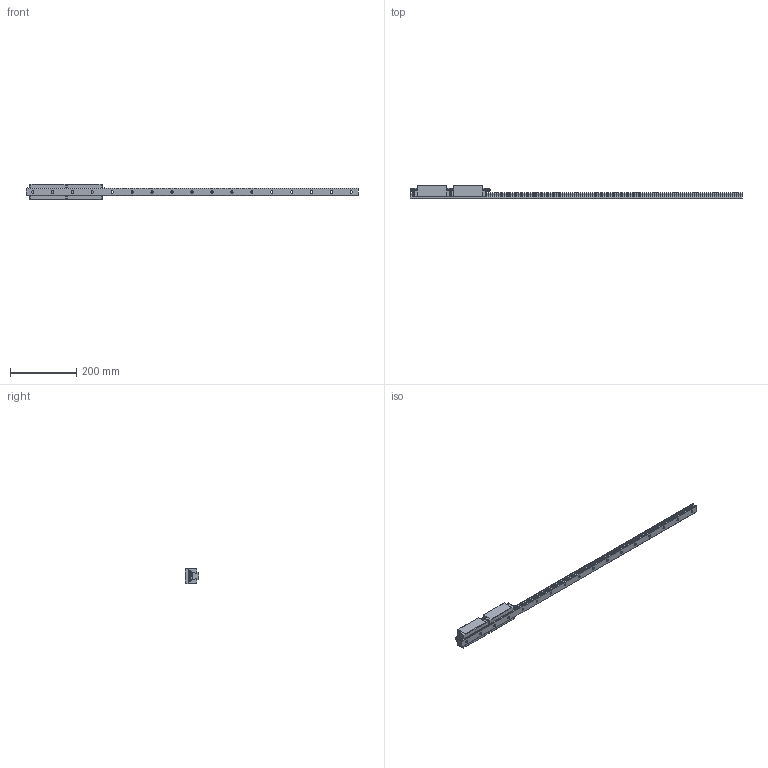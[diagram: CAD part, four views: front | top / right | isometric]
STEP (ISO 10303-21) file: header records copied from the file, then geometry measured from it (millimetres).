
FILE_DESCRIPTION( ( 'STEP AP203' ), '1' );
FILE_NAME( 'p:/temp/worker_964/temp/exporttempdir_3732_390_EUDIF/format_0/SME25LSA2SSF0+R1000-20_20N_(0_121_0_01G-M6).stp', '2020-07-22T14:23:51', ( 'License CC BY-ND 4.0' ), ( 'CADENAS' ), ' ', 'PARTsolutions', ' ' );
FILE_SCHEMA( ( 'CONFIG_CONTROL_DESIGN' ) );
Length unit declared in the file: millimetre
Products named in the file (5): SME25LSA2SSF0+R1000-20/20N_(0_121_0_01G-M6); _SME25EA1000-20/20N (2SSFCR1G-M6); _SME25LSASSF0N (); _SME-ES25; _G-M6
Assembly tree (9 placements, depth 2):
  SME25LSA2SSF0+R1000-20/20N_(0_121_0_01G-M6)
    _SME25EA1000-20/20N (2SSFCR1G-M6)
    _SME25LSASSF0N ()  x2
    _SME-ES25  x4
    _G-M6  x2
Bounding box: 1000 x 40 x 48 mm (x, y, z)
Volume: 637317.1 mm3; surface area: 148381.6 mm2
Topology: 9 solids, 9 shells, 559 faces, 1418 edges, 920 vertices
Faces by surface type: plane 309, cylinder 158, cone 84, sphere 4, torus 2, bspline 2
Full cylindrical faces by diameter (mm): 3.242 x8, 4.917 x8, 5.5 x8, 6 x2, 6.5 x12, 7 x17, 8 x2, 11 x17
Entity records: 7717 total; most frequent: CARTESIAN_POINT 1438, DIRECTION 1274, ORIENTED_EDGE 1136, EDGE_CURVE 568, AXIS2_PLACEMENT_3D 481, VERTEX_POINT 417, EDGE_LOOP 395, FACE_OUTER_BOUND 315
